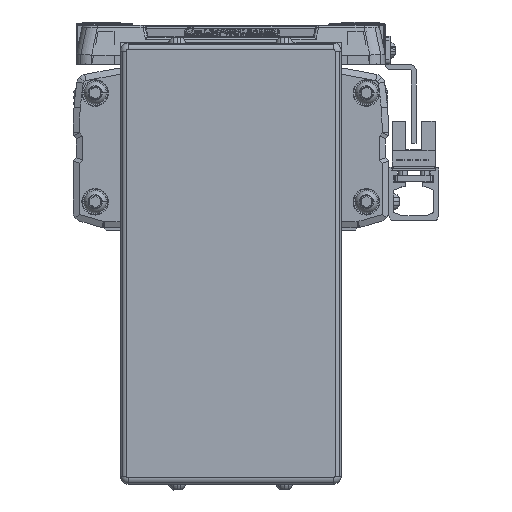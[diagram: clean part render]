
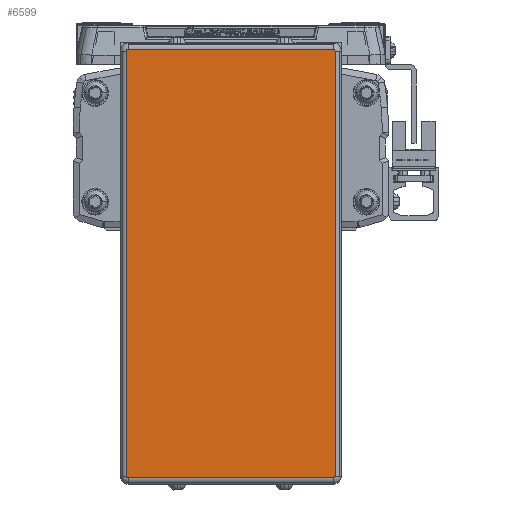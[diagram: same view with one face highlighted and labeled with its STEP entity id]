
A CAD part, left-side view. The second image highlights one B-rep face of the part: STEP entity #6599.
In plain terms, the highlighted planar face has unit normal (-1, 0, 0).
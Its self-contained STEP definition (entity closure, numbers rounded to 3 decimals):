
#6599=ADVANCED_FACE('',(#13877),#13878,.F.);
#13877=FACE_OUTER_BOUND('',#22461,.T.);
#13878=PLANE('',#22462);
#22461=EDGE_LOOP('',(#40805,#40806,#40807,#40808,#40809,#40810,#40811,#40812));
#22462=AXIS2_PLACEMENT_3D('',#40813,#40814,#40815);
#40805=ORIENTED_EDGE('',*,*,#55248,.T.);
#40806=ORIENTED_EDGE('',*,*,#48429,.T.);
#40807=ORIENTED_EDGE('',*,*,#50404,.T.);
#40808=ORIENTED_EDGE('',*,*,#55249,.T.);
#40809=ORIENTED_EDGE('',*,*,#50272,.T.);
#40810=ORIENTED_EDGE('',*,*,#48544,.T.);
#40811=ORIENTED_EDGE('',*,*,#52318,.T.);
#40812=ORIENTED_EDGE('',*,*,#54181,.T.);
#40813=CARTESIAN_POINT('',(-616.0,0.,-41.6));
#40814=DIRECTION('',(1.0,0.,0.));
#40815=DIRECTION('',(0.,0.,1.0));
#48429=EDGE_CURVE('',#57983,#57980,#57984,.T.);
#48544=EDGE_CURVE('',#58194,#58192,#58195,.T.);
#50272=EDGE_CURVE('',#61123,#58194,#61124,.T.);
#50404=EDGE_CURVE('',#57980,#61342,#61344,.T.);
#52318=EDGE_CURVE('',#58192,#64335,#64337,.T.);
#54181=EDGE_CURVE('',#64335,#66918,#66920,.T.);
#55248=EDGE_CURVE('',#66918,#57983,#68291,.T.);
#55249=EDGE_CURVE('',#61342,#61123,#68292,.T.);
#57980=VERTEX_POINT('',#71599);
#57983=VERTEX_POINT('',#71602);
#57984=CIRCLE('',#71603,0.5);
#58192=VERTEX_POINT('',#71906);
#58194=VERTEX_POINT('',#71908);
#58195=CIRCLE('',#71909,0.5);
#61123=VERTEX_POINT('',#75978);
#61124=LINE('',#75979,#75980);
#61342=VERTEX_POINT('',#76293);
#61344=LINE('',#76295,#76296);
#64335=VERTEX_POINT('',#80421);
#64337=LINE('',#80423,#80424);
#66918=VERTEX_POINT('',#83973);
#66920=CIRCLE('',#83975,0.5);
#68291=LINE('',#85858,#85859);
#68292=CIRCLE('',#85860,0.5);
#71599=CARTESIAN_POINT('',(-616.,-32.55,26.3));
#71602=CARTESIAN_POINT('',(-616.,-33.05,25.8));
#71603=AXIS2_PLACEMENT_3D('',#88907,#88908,#88909);
#71906=CARTESIAN_POINT('',(-616.0,32.55,-109.5));
#71908=CARTESIAN_POINT('',(-616.0,33.05,-109.));
#71909=AXIS2_PLACEMENT_3D('',#89098,#89099,#89100);
#75978=CARTESIAN_POINT('',(-616.,33.05,25.8));
#75979=CARTESIAN_POINT('',(-616.0,33.05,-41.6));
#75980=VECTOR('',#91346,10.0);
#76293=CARTESIAN_POINT('',(-616.,32.55,26.3));
#76295=CARTESIAN_POINT('',(-616.,0.,26.3));
#76296=VECTOR('',#91533,10.0);
#80421=CARTESIAN_POINT('',(-616.0,-32.55,-109.5));
#80423=CARTESIAN_POINT('',(-616.0,0.,-109.5));
#80424=VECTOR('',#94111,10.0);
#83973=CARTESIAN_POINT('',(-616.0,-33.05,-109.));
#83975=AXIS2_PLACEMENT_3D('',#96599,#96600,#96601);
#85858=CARTESIAN_POINT('',(-616.0,-33.05,-41.6));
#85859=VECTOR('',#97820,10.0);
#85860=AXIS2_PLACEMENT_3D('',#97821,#97822,#97823);
#88907=CARTESIAN_POINT('',(-616.,-32.55,25.8));
#88908=DIRECTION('',(-1.0,0.,0.));
#88909=DIRECTION('',(0.,-0.707,0.707));
#89098=CARTESIAN_POINT('',(-616.0,32.55,-109.));
#89099=DIRECTION('',(-1.0,0.,0.));
#89100=DIRECTION('',(0.,0.707,-0.707));
#91346=DIRECTION('',(0.,0.,-1.0));
#91533=DIRECTION('',(0.,1.0,0.));
#94111=DIRECTION('',(0.,-1.0,0.));
#96599=CARTESIAN_POINT('',(-616.0,-32.55,-109.));
#96600=DIRECTION('',(-1.0,0.,0.));
#96601=DIRECTION('',(0.,-0.707,-0.707));
#97820=DIRECTION('',(0.,0.,1.0));
#97821=CARTESIAN_POINT('',(-616.,32.55,25.8));
#97822=DIRECTION('',(-1.0,0.,0.));
#97823=DIRECTION('',(0.,0.707,0.707));
